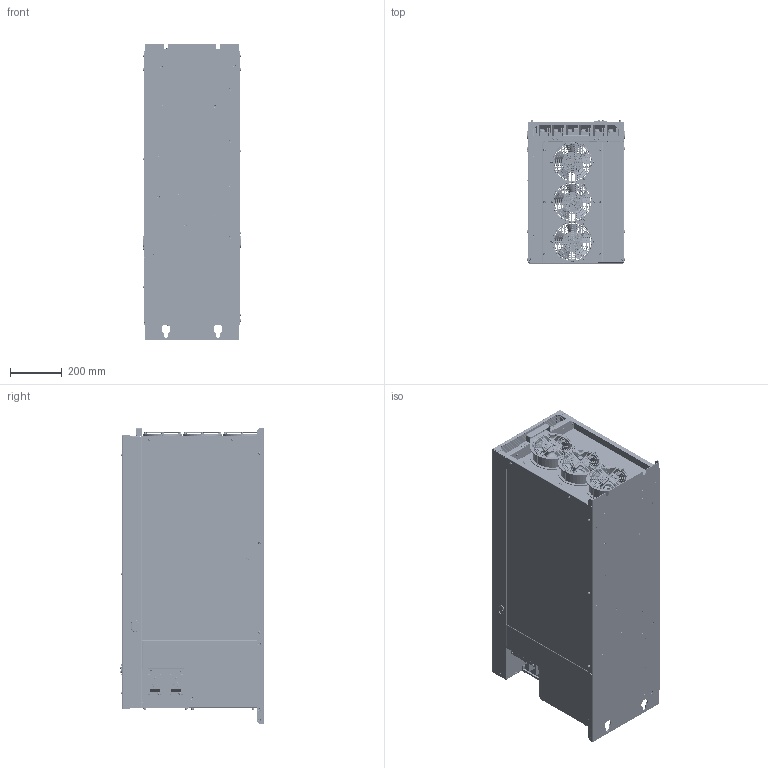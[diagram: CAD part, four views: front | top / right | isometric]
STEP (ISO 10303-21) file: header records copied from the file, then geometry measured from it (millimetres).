
FILE_DESCRIPTION(/* description */ (''),/* implementation_level */ '2;1');
FILE_NAME(/* name */ 'VF302C-B10-3d.step',/* time_stamp */ '2023-03-02T11:33:56+07:00',/* author */ (''),/* organization */ (''),/* preprocessor_version */ 'ST-DEVELOPER v19.2',/* originating_system */ 'Autodesk Translation Framework v11.17.0.187',/* authorisation */ '');
FILE_SCHEMA (('AUTOMOTIVE_DESIGN { 1 0 10303 214 3 1 1 }'));
Products named in the file (37): (Unsaved); VF302C-B10-D_ASM; VF302C-B10-P_ASM; P013_ASM; ASM0001_ASM; VF302C-B10-A_ASM; VF302C-B10-M001; VF302C-B10-0S_ASM; M5X14_GB9074_8; M4X60_GB9074_8; 24_VC0000000008-P0001; M6X20_GB9074_8; M8_45X45; M6_20X20; M8_30X30; M12_GB97_1; M12_GB93_87; M12X25_GB5783; M8X16_GB9074_13; M5X12_GB9074_13; M4X10_GB819_1; M6X16_GB9074_8; M3X8_GB9074_8; M4_GB97_1; M4_GB93_87; M4_GB6170; M5X12_GB9074_8; M4X10_GB9074_8; PF_M4X5; VEDAVFD; koleso_display; display_2; knopka_pusk; knopka_stop; knopka_prg2; knopka_jog_rev; tablichka_gc_v_a_2
Assembly tree (482 placements, depth 3):
  (Unsaved)
    VF302C-B10-D_ASM
    VF302C-B10-P_ASM
      P013_ASM
      ASM0001_ASM
    VF302C-B10-A_ASM
    VF302C-B10-M001
    VF302C-B10-0S_ASM
      M5X14_GB9074_8  x89
      M6X16_GB9074_8  x118
      M8X16_GB9074_13  x11
      M4X10_GB9074_8  x57
      M5X12_GB9074_8  x44
      M4X60_GB9074_8  x12
      M6X20_GB9074_8  x40
      24_VC0000000008-P0001  x4
      M8_45X45
      M6_20X20
      M8_30X30  x4
      M12_GB97_1  x8
      M12_GB93_87  x8
      M12X25_GB5783  x8
      M5X12_GB9074_13  x6
      M4X10_GB819_1  x4
      M3X8_GB9074_8  x29
      M4_GB97_1  x4
      M4_GB93_87  x4
      M4_GB6170  x4
      PF_M4X5  x11
    VEDAVFD
    koleso_display
    display_2
      knopka_pusk
      knopka_stop
      knopka_prg2
      knopka_jog_rev
    tablichka_gc_v_a_2
Bounding box: 380.47 x 552.07 x 1140 mm (x, y, z)
Volume: 10505759.6 mm3; surface area: 9523747.5 mm2
Topology: 861 solids, 1298 shells, 34537 faces, 86251 edges, 56217 vertices
Faces by surface type: plane 24383, cylinder 5696, bspline 2391, cone 802, torus 717, sphere 548
Full cylindrical faces by diameter (mm): 0.5 x494, 0.8 x30, 0.9 x8, 1 x18, 1.08 x1, 1.5 x4, 1.8 x4, 2 x24, 2.2 x18, 2.5 x89, 2.6 x6, 3 x48, 3.2 x1, 3.3 x13, 3.5 x75, 3.6 x61, 3.8 x20, 4 x219, 4.2 x169, 4.3 x4, 4.39 x14, 4.5 x171, 4.99 x28, 5 x313, 5.2 x7, 5.38 x61, 5.39 x42, 5.4 x124, 5.5 x32, 5.79 x3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
Entity records: 796308 total; most frequent: CARTESIAN_POINT 201186, ORIENTED_EDGE 122896, DIRECTION 115115, EDGE_CURVE 61462, LINE 45545, VECTOR 45545, VERTEX_POINT 39839, AXIS2_PLACEMENT_3D 34785
